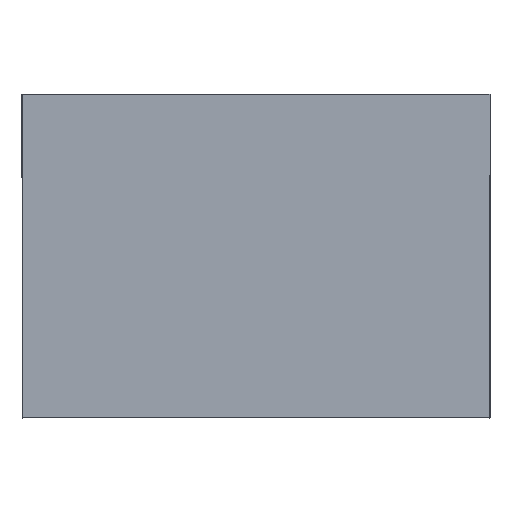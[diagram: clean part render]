
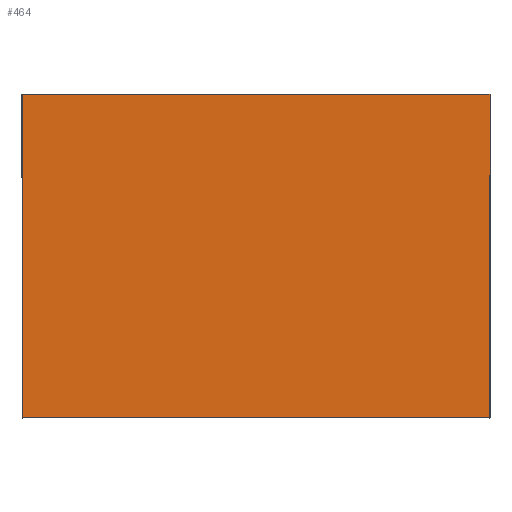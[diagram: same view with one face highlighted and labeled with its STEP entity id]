
A CAD part, front view. The second image highlights one B-rep face of the part: STEP entity #464.
In plain terms, the highlighted planar face has unit normal (0, -1, 0).
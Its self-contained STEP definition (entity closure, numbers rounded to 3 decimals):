
#15 = DIRECTION ( 'NONE',  ( 0., 0., -1. ) ) ;
#34 = EDGE_CURVE ( 'NONE', #2366, #1413, #2626, .T. ) ;
#100 = CARTESIAN_POINT ( 'NONE',  ( 0., 0., 0. ) ) ;
#128 = VECTOR ( 'NONE', #15, 1000. ) ;
#222 = FACE_OUTER_BOUND ( 'NONE', #498, .T. ) ;
#425 = DIRECTION ( 'NONE',  ( -1., 0., 0. ) ) ;
#464 = ADVANCED_FACE ( 'NONE', ( #222 ), #1647, .F. ) ;
#498 = EDGE_LOOP ( 'NONE', ( #2565, #2138, #707, #1349 ) ) ;
#536 = EDGE_CURVE ( 'NONE', #2570, #766, #2345, .T. ) ;
#549 = CARTESIAN_POINT ( 'NONE',  ( 32.5, 0., -22.5 ) ) ;
#553 = CARTESIAN_POINT ( 'NONE',  ( 32.5, 0., -22.5 ) ) ;
#634 = DIRECTION ( 'NONE',  ( 1., 0., 0. ) ) ;
#679 = CARTESIAN_POINT ( 'NONE',  ( 32.5, 0., 22.5 ) ) ;
#687 = LINE ( 'NONE', #549, #128 ) ;
#707 = ORIENTED_EDGE ( 'NONE', *, *, #1557, .F. ) ;
#766 = VERTEX_POINT ( 'NONE', #679 ) ;
#943 = CARTESIAN_POINT ( 'NONE',  ( -32.5, 0., 22.5 ) ) ;
#1257 = CARTESIAN_POINT ( 'NONE',  ( -32.5, 0., 22.5 ) ) ;
#1349 = ORIENTED_EDGE ( 'NONE', *, *, #34, .F. ) ;
#1375 = VECTOR ( 'NONE', #425, 1000. ) ;
#1413 = VERTEX_POINT ( 'NONE', #1981 ) ;
#1557 = EDGE_CURVE ( 'NONE', #1413, #2570, #2382, .T. ) ;
#1647 = PLANE ( 'NONE',  #2036 ) ;
#1715 = VECTOR ( 'NONE', #1828, 1000. ) ;
#1736 = DIRECTION ( 'NONE',  ( 0., 0., 1. ) ) ;
#1828 = DIRECTION ( 'NONE',  ( 0., 0., 1. ) ) ;
#1926 = VECTOR ( 'NONE', #634, 1000. ) ;
#1981 = CARTESIAN_POINT ( 'NONE',  ( -32.5, 0., -22.5 ) ) ;
#2036 = AXIS2_PLACEMENT_3D ( 'NONE', #100, #2559, #1736 ) ;
#2059 = CARTESIAN_POINT ( 'NONE',  ( -32.5, 0., -22.5 ) ) ;
#2138 = ORIENTED_EDGE ( 'NONE', *, *, #536, .F. ) ;
#2146 = EDGE_CURVE ( 'NONE', #766, #2366, #687, .T. ) ;
#2345 = LINE ( 'NONE', #1257, #1926 ) ;
#2366 = VERTEX_POINT ( 'NONE', #553 ) ;
#2382 = LINE ( 'NONE', #2636, #1715 ) ;
#2559 = DIRECTION ( 'NONE',  ( 0., 1., 0. ) ) ;
#2565 = ORIENTED_EDGE ( 'NONE', *, *, #2146, .F. ) ;
#2570 = VERTEX_POINT ( 'NONE', #943 ) ;
#2626 = LINE ( 'NONE', #2059, #1375 ) ;
#2636 = CARTESIAN_POINT ( 'NONE',  ( -32.5, 0., -22.5 ) ) ;
